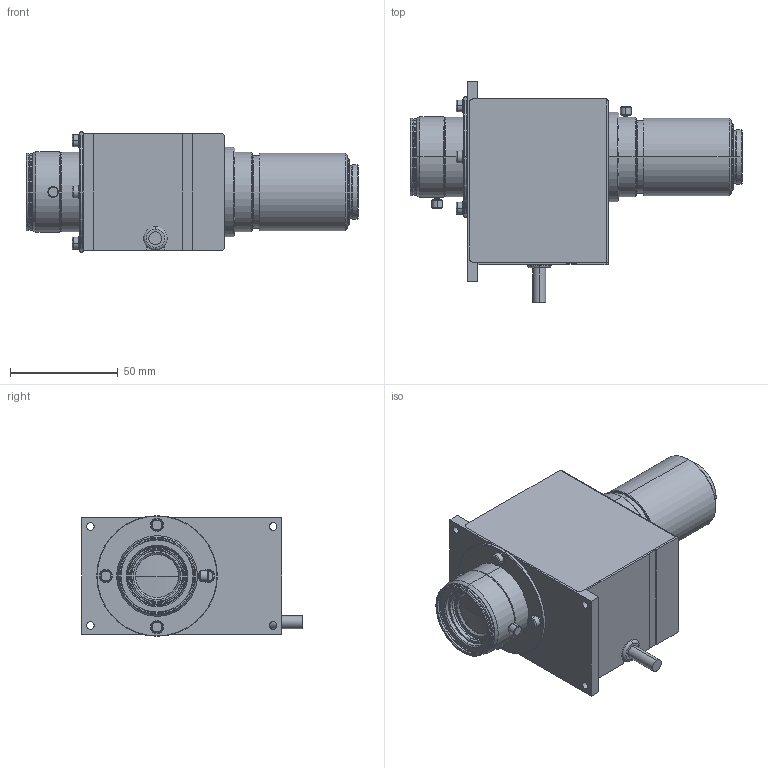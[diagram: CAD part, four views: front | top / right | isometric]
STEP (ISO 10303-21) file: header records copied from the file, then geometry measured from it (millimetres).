
FILE_DESCRIPTION (( 'STEP AP203' ), '1' );
FILE_NAME ('VSZ-0530-MR.STEP', '2017-05-25T11:05:53', ( '' ), ( '' ), 'SwSTEP 2.0', 'SolidWorks 2017', '' );
FILE_SCHEMA (( 'CONFIG_CONTROL_DESIGN' ));
Length unit declared in the file: millimetre
Products named in the file (1): VSZ-0530-MR
Bounding box: 154.29 x 102.5 x 56 mm (x, y, z)
Volume: 413824.2 mm3; surface area: 101994.6 mm2
Topology: 5 solids, 5 shells, 395 faces, 831 edges, 504 vertices
Faces by surface type: cylinder 135, cone 124, plane 120, torus 12, sphere 4
Entity records: 10704 total; most frequent: DIRECTION 2049, CARTESIAN_POINT 1795, ORIENTED_EDGE 1662, EDGE_CURVE 831, AXIS2_PLACEMENT_3D 826, VERTEX_POINT 504, EDGE_LOOP 465, CIRCLE 430
